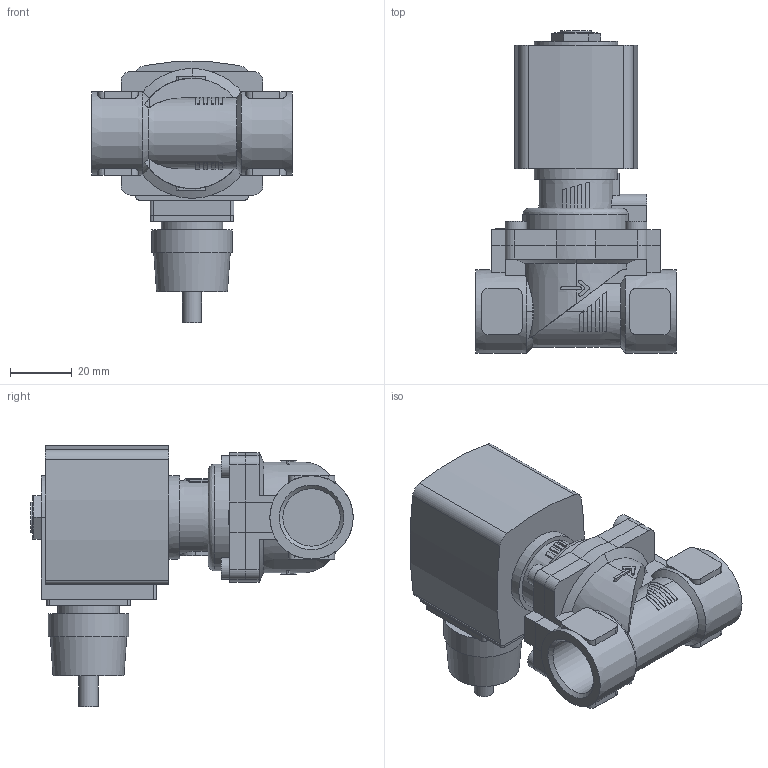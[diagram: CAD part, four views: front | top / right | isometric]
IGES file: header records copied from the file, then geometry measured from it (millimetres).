
Start section: Data from Parasolid IGES Translator 26.0.171, Copyright(c) 2006 Siemens PLM Software. All Rights Reserved.
Global section: file name: 6281-372920-2_2-Way_Solenoid_Valve__Servo-assisted__General_Purpose.igs; native system: By Siemens PLM Incorporated; preprocessor: XPlus GENERIC/IGES 26.0.171; author: Noname; organization: Noname; date: 20240816.213210; units: millimetre
Bounding box: 65 x 104.5 x 84.63 mm (x, y, z)
Surface area: 33216.4 mm2 (no closed solid volume)
Topology: 0 solids, 0 shells, 324 faces, 1722 edges, 1708 vertices
Faces by surface type: extrusion 191, revolution 133
